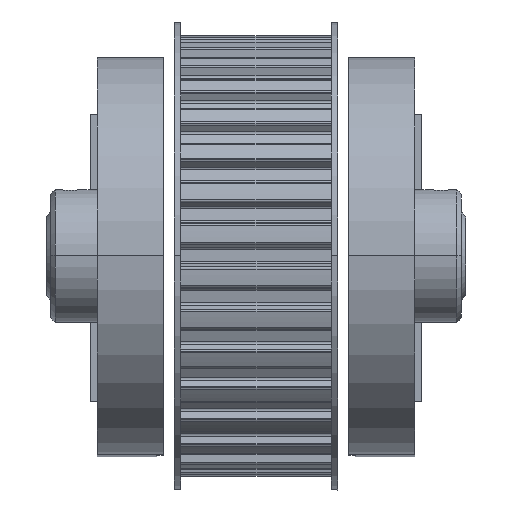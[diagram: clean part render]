
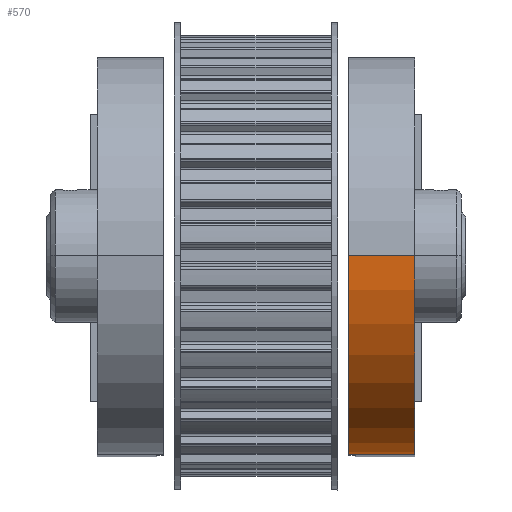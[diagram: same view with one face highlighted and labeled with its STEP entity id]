
A CAD part, top view. The second image highlights one B-rep face of the part: STEP entity #570.
In plain terms, the highlighted cylindrical face has radius 45 mm (diameter 90 mm), a partial arc.
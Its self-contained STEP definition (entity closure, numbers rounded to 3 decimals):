
#570 = ADVANCED_FACE ( 'NONE', ( #4538 ), #4311, .T. ) ;
#2896 = DIRECTION ( 'NONE',  ( 1., 0., 0. ) ) ;
#3008 = CARTESIAN_POINT ( 'NONE',  ( 0., -45., 255. ) ) ;
#3713 = VERTEX_POINT ( 'NONE', #8123 ) ;
#4049 = AXIS2_PLACEMENT_3D ( 'NONE', #9052, #9030, #5229 ) ;
#4311 = CYLINDRICAL_SURFACE ( 'NONE', #4049, 45. ) ;
#4388 = EDGE_LOOP ( 'NONE', ( #17104, #17607, #17863, #18118 ) ) ;
#4538 = FACE_OUTER_BOUND ( 'NONE', #4388, .T. ) ;
#5229 = DIRECTION ( 'NONE',  ( 0., 0., 1. ) ) ;
#5893 = AXIS2_PLACEMENT_3D ( 'NONE', #3008, #2896, #11267 ) ;
#6008 = VERTEX_POINT ( 'NONE', #10083 ) ;
#7049 = CARTESIAN_POINT ( 'NONE',  ( 0., -45., 300. ) ) ;
#8014 = DIRECTION ( 'NONE',  ( -1., 0., 0. ) ) ;
#8054 = VECTOR ( 'NONE', #8014, 1000. ) ;
#8123 = CARTESIAN_POINT ( 'NONE',  ( -15., -90., 255. ) ) ;
#8286 = LINE ( 'NONE', #9534, #8054 ) ;
#9030 = DIRECTION ( 'NONE',  ( -1., 0., 0. ) ) ;
#9052 = CARTESIAN_POINT ( 'NONE',  ( 0., -45., 255. ) ) ;
#9106 = EDGE_CURVE ( 'NONE', #19284, #6008, #13795, .T. ) ;
#9534 = CARTESIAN_POINT ( 'NONE',  ( 0., -45., 300. ) ) ;
#9551 = EDGE_CURVE ( 'NONE', #19284, #10289, #8286, .T. ) ;
#9847 = VECTOR ( 'NONE', #13488, 1000. ) ;
#10063 = LINE ( 'NONE', #12109, #9847 ) ;
#10083 = CARTESIAN_POINT ( 'NONE',  ( 0., -90., 255. ) ) ;
#10098 = AXIS2_PLACEMENT_3D ( 'NONE', #12138, #12092, #12077 ) ;
#10289 = VERTEX_POINT ( 'NONE', #16197 ) ;
#10390 = EDGE_CURVE ( 'NONE', #10289, #3713, #17628, .T. ) ;
#10927 = EDGE_CURVE ( 'NONE', #6008, #3713, #10063, .T. ) ;
#11267 = DIRECTION ( 'NONE',  ( 0., 0., -1. ) ) ;
#12077 = DIRECTION ( 'NONE',  ( 0., 0., -1. ) ) ;
#12092 = DIRECTION ( 'NONE',  ( 1., 0., 0. ) ) ;
#12109 = CARTESIAN_POINT ( 'NONE',  ( 0., -90., 255. ) ) ;
#12138 = CARTESIAN_POINT ( 'NONE',  ( -15., -45., 255. ) ) ;
#13488 = DIRECTION ( 'NONE',  ( -1., 0., 0. ) ) ;
#13795 = CIRCLE ( 'NONE', #5893, 45. ) ;
#16197 = CARTESIAN_POINT ( 'NONE',  ( -15., -45., 300. ) ) ;
#17104 = ORIENTED_EDGE ( 'NONE', *, *, #9106, .F. ) ;
#17607 = ORIENTED_EDGE ( 'NONE', *, *, #9551, .T. ) ;
#17628 = CIRCLE ( 'NONE', #10098, 45. ) ;
#17863 = ORIENTED_EDGE ( 'NONE', *, *, #10390, .T. ) ;
#18118 = ORIENTED_EDGE ( 'NONE', *, *, #10927, .F. ) ;
#19284 = VERTEX_POINT ( 'NONE', #7049 ) ;
